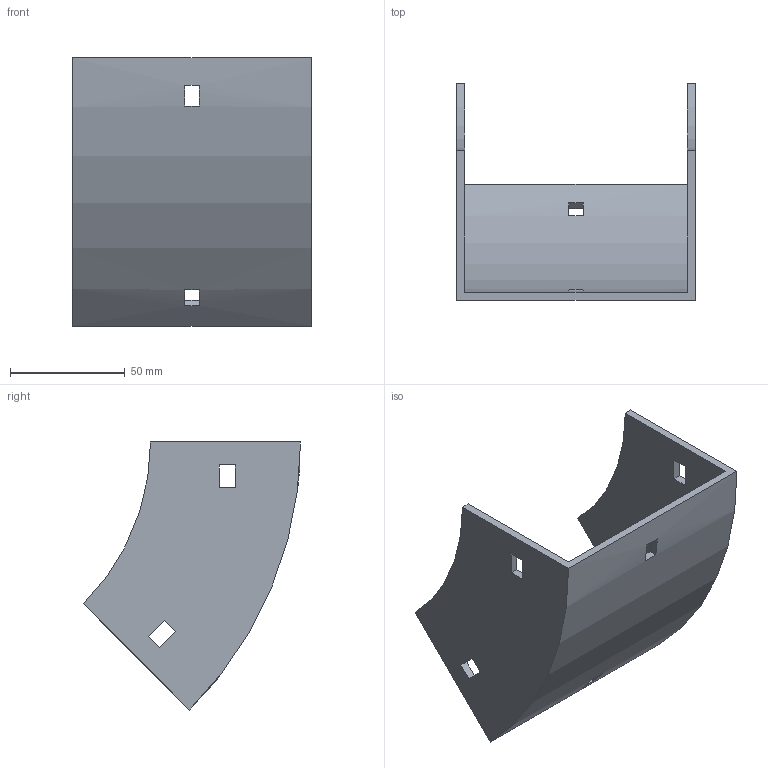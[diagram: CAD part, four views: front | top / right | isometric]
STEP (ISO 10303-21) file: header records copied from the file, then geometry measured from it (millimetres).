
FILE_DESCRIPTION (( 'STEP AP214' ), '1' );
FILE_NAME ('31B1H100.step', '2025-02-21T09:47:04', ( '' ), ( '' ), 'SwSTEP 2.0', 'SolidWorks 2023', '' );
FILE_SCHEMA (( 'AUTOMOTIVE_DESIGN' ));
Length unit declared in the file: millimetre
Products named in the file (1): 31B1H100
Bounding box: 104 x 94.79 x 117.03 mm (x, y, z)
Volume: 90075 mm3; surface area: 54321 mm2
Topology: 1 solids, 1 shells, 34 faces, 96 edges, 64 vertices
Faces by surface type: plane 30, cylinder 4
Entity records: 1143 total; most frequent: CARTESIAN_POINT 195, ORIENTED_EDGE 192, DIRECTION 182, EDGE_CURVE 96, LINE 80, VECTOR 80, VERTEX_POINT 64, AXIS2_PLACEMENT_3D 51
